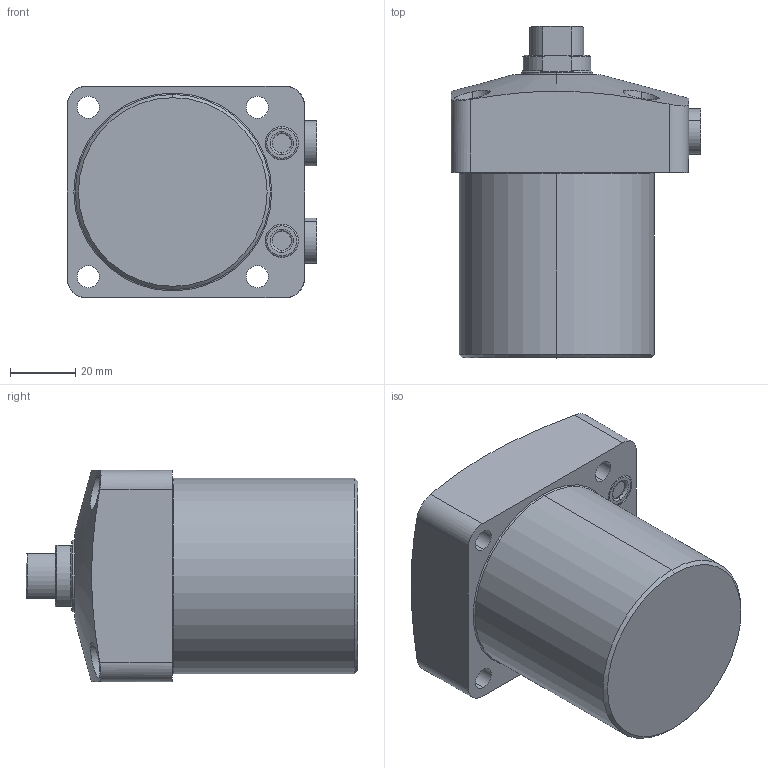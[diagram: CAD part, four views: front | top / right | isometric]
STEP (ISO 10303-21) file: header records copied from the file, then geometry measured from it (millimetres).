
FILE_DESCRIPTION(/* description */ (''),/* implementation_level */ '2;1');
FILE_NAME(/* name */ 'FSC016.stp',/* time_stamp */ '2022-11-16T13:26:50+08:00',/* author */ (''),/* organization */ (''),/* preprocessor_version */ 'ST-DEVELOPER v16.7',/* originating_system */ 'SIEMENS PLM Software NX 12.0',/* authorisation */ '');
FILE_SCHEMA (('AP203_CONFIGURATION_CONTROLLED_3D_DESIGN_OF_MECHANICAL_PARTS_AND_ASSEMBLIES_MIM_LF { 1 0 10303 403 2 1 2}'));
Length unit declared in the file: millimetre
Products named in the file (5): FSC016-03; FSC016-02; FSC016-04; FSC016-01; CSU16_step
Assembly tree (5 placements, depth 2):
  CSU16_step
    FSC016-01
    FSC016-04  x2
    FSC016-02
    FSC016-03
Bounding box: 76.8 x 102 x 65 mm (x, y, z)
Volume: 283238.1 mm3; surface area: 36545.5 mm2
Topology: 5 solids, 7 shells, 196 faces, 420 edges, 259 vertices
Faces by surface type: cylinder 80, plane 56, torus 30, cone 28, sphere 2
Entity records: 5510 total; most frequent: DIRECTION 936, CARTESIAN_POINT 930, ORIENTED_EDGE 756, AXIS2_PLACEMENT_3D 402, EDGE_CURVE 378, VERTEX_POINT 233, CIRCLE 220, EDGE_LOOP 209
